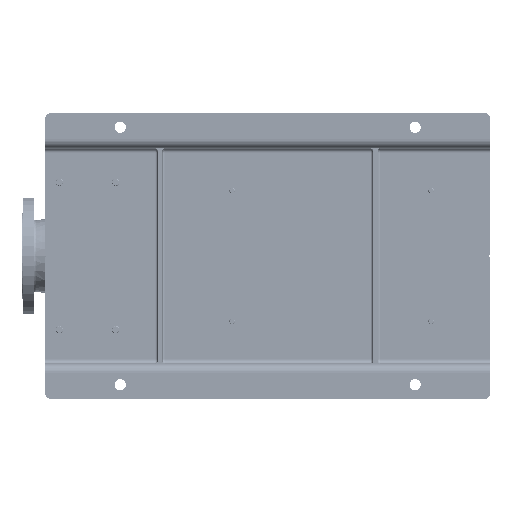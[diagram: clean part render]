
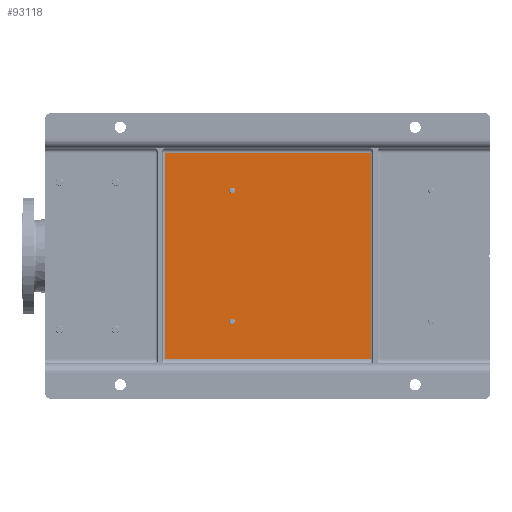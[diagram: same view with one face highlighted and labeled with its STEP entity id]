
A CAD part, front view. The second image highlights one B-rep face of the part: STEP entity #93118.
In plain terms, the highlighted planar face has unit normal (0, -1, 0).
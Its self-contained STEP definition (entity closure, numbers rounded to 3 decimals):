
#248 = CARTESIAN_POINT ( 'NONE',  ( 165.5, 65., -405. ) ) ;
#2137 = DIRECTION ( 'NONE',  ( 0., 0., 1. ) ) ;
#8733 = DIRECTION ( 'NONE',  ( 0., 1., 0. ) ) ;
#20664 = DIRECTION ( 'NONE',  ( 0., 0., -1. ) ) ;
#21876 = CIRCLE ( 'NONE', #65096, 6. ) ;
#23782 = CARTESIAN_POINT ( 'NONE',  ( 525., 65., -250. ) ) ;
#38501 = VERTEX_POINT ( 'NONE', #248 ) ;
#43215 = EDGE_CURVE ( 'NONE', #143795, #38501, #51633, .T. ) ;
#47086 = AXIS2_PLACEMENT_3D ( 'NONE', #129200, #165775, #248203 ) ;
#51633 = CIRCLE ( 'NONE', #107834, 6. ) ;
#52341 = EDGE_CURVE ( 'NONE', #264857, #241204, #65643, .T. ) ;
#52414 = VERTEX_POINT ( 'NONE', #84623 ) ;
#55084 = AXIS2_PLACEMENT_3D ( 'NONE', #254797, #8733, #256112 ) ;
#62100 = EDGE_LOOP ( 'NONE', ( #260351, #166521 ) ) ;
#65096 = AXIS2_PLACEMENT_3D ( 'NONE', #72571, #265423, #111864 ) ;
#65643 = LINE ( 'NONE', #23782, #249482 ) ;
#68566 = EDGE_CURVE ( 'NONE', #38501, #143795, #154967, .T. ) ;
#72532 = CARTESIAN_POINT ( 'NONE',  ( 75., 65., -255. ) ) ;
#72571 = CARTESIAN_POINT ( 'NONE',  ( 444.5, 65., -399. ) ) ;
#84623 = CARTESIAN_POINT ( 'NONE',  ( 444.5, 65., -405. ) ) ;
#84668 = CARTESIAN_POINT ( 'NONE',  ( 165.5, 65., -393. ) ) ;
#88663 = EDGE_CURVE ( 'NONE', #240166, #264857, #197360, .T. ) ;
#92807 = CARTESIAN_POINT ( 'NONE',  ( 85., 65., -700. ) ) ;
#93118 = ADVANCED_FACE ( 'NONE', ( #257380, #157346, #239786 ), #199221, .T. ) ;
#94240 = EDGE_CURVE ( 'NONE', #52414, #213750, #21876, .T. ) ;
#107834 = AXIS2_PLACEMENT_3D ( 'NONE', #236227, #232266, #172754 ) ;
#111864 = DIRECTION ( 'NONE',  ( 0., 0., 1. ) ) ;
#112023 = ORIENTED_EDGE ( 'NONE', *, *, #43215, .T. ) ;
#115557 = CARTESIAN_POINT ( 'NONE',  ( 85., 65., -695. ) ) ;
#124811 = EDGE_LOOP ( 'NONE', ( #112023, #261167 ) ) ;
#125988 = VECTOR ( 'NONE', #210574, 1000. ) ;
#129200 = CARTESIAN_POINT ( 'NONE',  ( 165.5, 65., -399. ) ) ;
#129400 = DIRECTION ( 'NONE',  ( 0., 0., -1. ) ) ;
#129952 = ORIENTED_EDGE ( 'NONE', *, *, #88663, .T. ) ;
#140603 = ORIENTED_EDGE ( 'NONE', *, *, #230718, .T. ) ;
#143730 = DIRECTION ( 'NONE',  ( 0., -1., 0. ) ) ;
#143795 = VERTEX_POINT ( 'NONE', #84668 ) ;
#146405 = CARTESIAN_POINT ( 'NONE',  ( 75., 65., -950. ) ) ;
#151101 = LINE ( 'NONE', #72532, #125988 ) ;
#154967 = CIRCLE ( 'NONE', #47086, 6. ) ;
#157346 = FACE_BOUND ( 'NONE', #62100, .T. ) ;
#157835 = VERTEX_POINT ( 'NONE', #165768 ) ;
#160502 = VECTOR ( 'NONE', #129400, 1000. ) ;
#165768 = CARTESIAN_POINT ( 'NONE',  ( 85., 65., -255. ) ) ;
#165775 = DIRECTION ( 'NONE',  ( 0., 1., 0. ) ) ;
#166521 = ORIENTED_EDGE ( 'NONE', *, *, #94240, .T. ) ;
#168900 = CARTESIAN_POINT ( 'NONE',  ( 444.5, 65., -393. ) ) ;
#169532 = EDGE_LOOP ( 'NONE', ( #140603, #129952, #231298, #210726 ) ) ;
#172754 = DIRECTION ( 'NONE',  ( 0., 0., -1. ) ) ;
#177093 = CARTESIAN_POINT ( 'NONE',  ( 75., 65., -695. ) ) ;
#185087 = EDGE_CURVE ( 'NONE', #241204, #157835, #151101, .T. ) ;
#195557 = LINE ( 'NONE', #92807, #160502 ) ;
#197360 = LINE ( 'NONE', #177093, #267142 ) ;
#199221 = PLANE ( 'NONE',  #211396 ) ;
#200294 = CARTESIAN_POINT ( 'NONE',  ( 525., 65., -695. ) ) ;
#210574 = DIRECTION ( 'NONE',  ( -1., 0., 0. ) ) ;
#210726 = ORIENTED_EDGE ( 'NONE', *, *, #185087, .T. ) ;
#211396 = AXIS2_PLACEMENT_3D ( 'NONE', #146405, #143730, #20664 ) ;
#213750 = VERTEX_POINT ( 'NONE', #168900 ) ;
#217692 = EDGE_CURVE ( 'NONE', #213750, #52414, #236350, .T. ) ;
#230718 = EDGE_CURVE ( 'NONE', #157835, #240166, #195557, .T. ) ;
#231298 = ORIENTED_EDGE ( 'NONE', *, *, #52341, .T. ) ;
#232266 = DIRECTION ( 'NONE',  ( 0., 1., 0. ) ) ;
#236227 = CARTESIAN_POINT ( 'NONE',  ( 165.5, 65., -399. ) ) ;
#236350 = CIRCLE ( 'NONE', #55084, 6. ) ;
#239786 = FACE_OUTER_BOUND ( 'NONE', #169532, .T. ) ;
#240166 = VERTEX_POINT ( 'NONE', #115557 ) ;
#241204 = VERTEX_POINT ( 'NONE', #265535 ) ;
#248203 = DIRECTION ( 'NONE',  ( 0., 0., -1. ) ) ;
#249482 = VECTOR ( 'NONE', #2137, 1000. ) ;
#254797 = CARTESIAN_POINT ( 'NONE',  ( 444.5, 65., -399. ) ) ;
#256112 = DIRECTION ( 'NONE',  ( 0., 0., 1. ) ) ;
#257380 = FACE_BOUND ( 'NONE', #124811, .T. ) ;
#259489 = DIRECTION ( 'NONE',  ( 1., 0., 0. ) ) ;
#260351 = ORIENTED_EDGE ( 'NONE', *, *, #217692, .T. ) ;
#261167 = ORIENTED_EDGE ( 'NONE', *, *, #68566, .T. ) ;
#264857 = VERTEX_POINT ( 'NONE', #200294 ) ;
#265423 = DIRECTION ( 'NONE',  ( 0., 1., 0. ) ) ;
#265535 = CARTESIAN_POINT ( 'NONE',  ( 525., 65., -255. ) ) ;
#267142 = VECTOR ( 'NONE', #259489, 1000. ) ;
